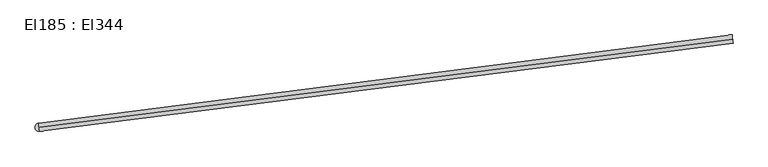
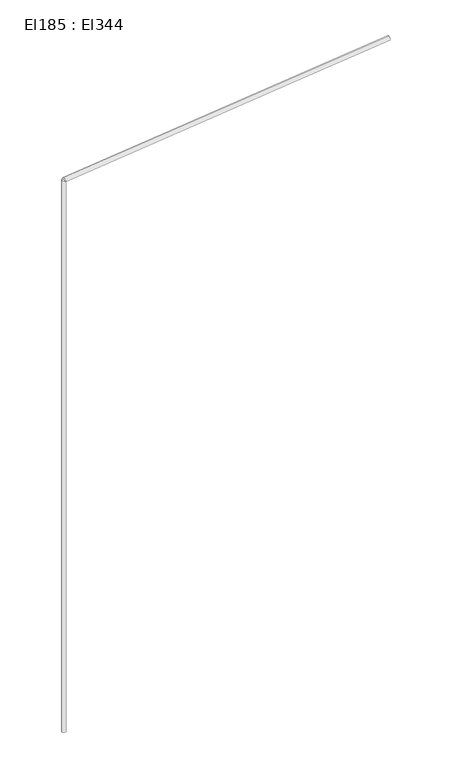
"""IFC4 building model written with IfcOpenShell, lengths in millimetres: cable carrier segment geometry, El185 : El344."""

from ifc_helpers import new_model, si_unit, point, frame, frame_2d, origin, place, context, project, spatial, circle_curve, trimmed, segment, composite_curve, outline, extrude, source, transform, mapped, element, save


def el185_el344_8edabc6b(model_context):
    return source(origin(), model_context, "Body", "SweptSolid", [
        extrude(outline(composite_curve([segment(trimmed(circle_curve(frame_2d((0.0, -9.5)), 9.5), [point((0.0, -19.0))], [point((0.0, 0.0))], False, "CARTESIAN"), True, "CONTINUOUS"), segment(trimmed(circle_curve(frame_2d((0.0, -9.5)), 9.5), [point((0.0, 0.0))], [point((0.0, -19.0))], False, "CARTESIAN"), True, "CONTINUOUS")], self_intersect=False)), frame((5414.4746511, 3324.8661745, 4459.5), z_axis=(0.9919983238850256, 0.12625104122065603, 0.0), x_axis=(-0.12625104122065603, 0.9919983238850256, 0.0)), (0.0, 0.0, 1.0), 1588.65),
        extrude(outline(composite_curve([segment(trimmed(circle_curve(frame_2d((5414.4746511, 3324.8661745)), 9.5), [point((5404.9746511, 3324.8661745))], [point((5423.9746511, 3324.8661745))], False, "CARTESIAN"), True, "CONTINUOUS"), segment(trimmed(circle_curve(frame_2d((5414.4746511, 3324.8661745)), 9.5), [point((5423.9746511, 3324.8661745))], [point((5404.9746511, 3324.8661745))], False, "CARTESIAN"), True, "CONTINUOUS")], self_intersect=False)), frame((0.0, 0.0, 1830.0), z_axis=(0.0, 0.0, 1.0), x_axis=(1.0, 0.0, 0.0)), (0.0, 0.0, 1.0), 2620.0),
    ])


if __name__ == "__main__":
    model = new_model("IFC4")
    model_context = context("Model", 3, world=origin())
    ifc_project = project(units=[si_unit("LENGTHUNIT", "METRE", prefix="MILLI")], contexts=[model_context])
    site = spatial("IfcSite", under=ifc_project)
    building = spatial("IfcBuilding", under=site)
    placement = place(None, origin())
    el185_el344_shape = el185_el344_8edabc6b(model_context)
    element("IfcCableCarrierSegment", 1, ObjectType="El185 : El344", at=placement, inside=building, context=model_context, shape_type="MappedRepresentation", body=[
        mapped(el185_el344_shape, transform((0.0, 0.0, 0.0), x_axis=(1.0, 0.0, 0.0), y_axis=(0.0, 1.0, 0.0), z_axis=(0.0, 0.0, 1.0))),
    ])
    save(model, "model.ifc")
